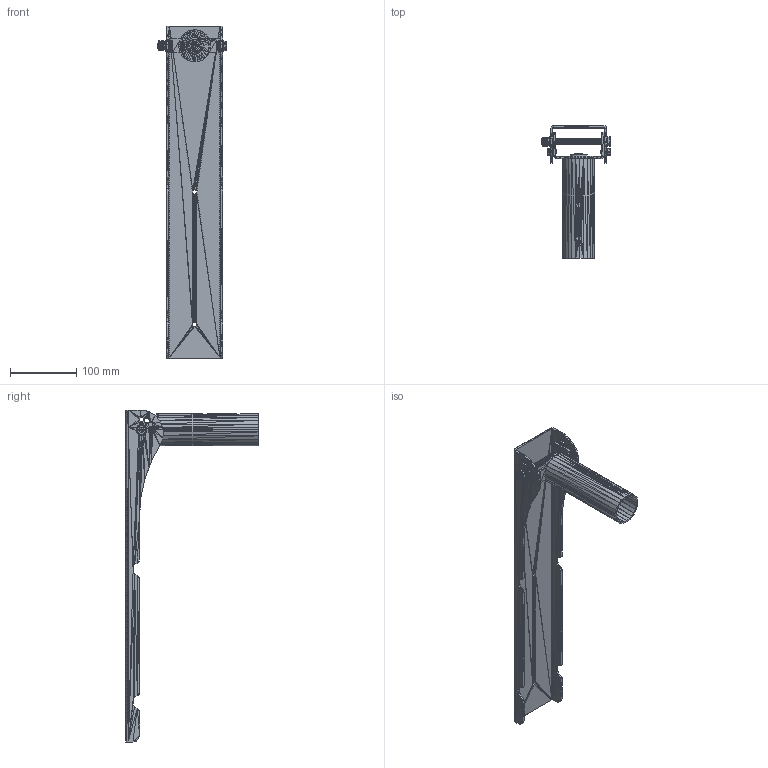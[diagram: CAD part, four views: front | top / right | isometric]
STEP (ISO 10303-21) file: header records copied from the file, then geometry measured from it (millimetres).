
FILE_DESCRIPTION((''),'2;1');
FILE_NAME('051092', '2026-02-10T08:10:56', (''), (''), 'ImageToStl.com STEP Converter','', '');
FILE_SCHEMA(('AUTOMOTIVE_DESIGN_CC2'));
Length unit declared in the file: metre
Products named in the file (1): product0
Bounding box: 104.7 x 200 x 500 mm (x, y, z)
Surface area: 191328.1 mm2 (no closed solid volume)
Topology: 0 solids, 9480 shells, 9480 faces, 28440 edges, 4720 vertices
Faces by surface type: plane 9480
Entity records: 218028 total; most frequent: DIRECTION 47402, ORIENTED_EDGE 28440, EDGE_CURVE 28440, LINE 28440, VECTOR 28440, AXIS2_PLACEMENT_3D 9481, FACE_SURFACE 9480, PLANE 9480
